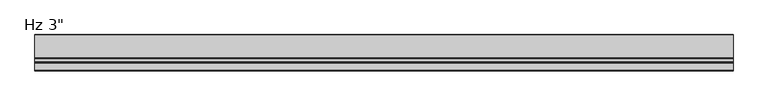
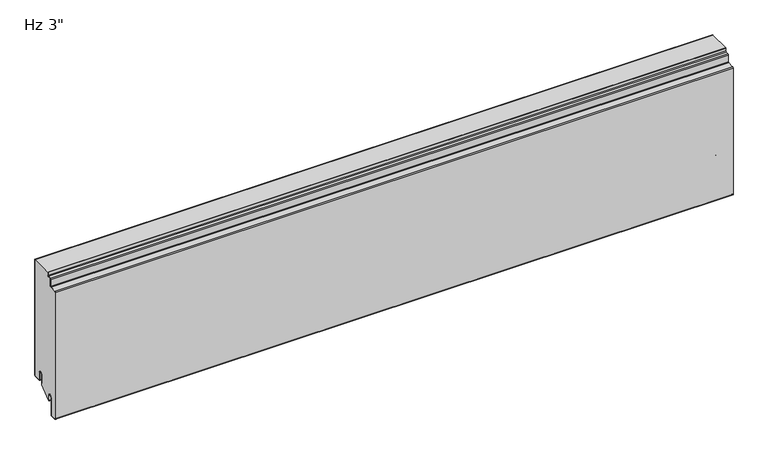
"""IFC4 building model written with IfcOpenShell, lengths in millimetres: plate geometry."""

from ifc_helpers import new_model, si_unit, point, frame, frame_2d, origin, place, context, project, spatial, polyline, circle_curve, trimmed, segment, composite_curve, outline, extrude, source, transform, mapped, element, save


def plate_fa82ef35(model_context):
    return source(origin(), model_context, "Body", "SweptSolid", [
        extrude(outline(composite_curve([segment(trimmed(circle_curve(frame_2d((-21.43125, 19.05)), 4.96875), [point((-16.4625, 19.05))], [point((-26.4, 19.05))], True, "CARTESIAN"), True, "CONTINUOUS"), segment(polyline([(-26.4, 19.05), (-26.4, -3.1323422), (-49.2157227, -23.01875), (-50.8, -23.01875), (-50.8, -13.5080174), (-51.59375, -13.5080174), (-51.3875, -11.9205174)]), True, "CONTINUOUS"), segment(trimmed(circle_curve(frame_2d((-56.35625, -11.9205174)), 4.96875), [point((-51.3875, -11.9205174))], [point((-61.325, -11.9205174))], True, "CARTESIAN"), True, "CONTINUOUS"), segment(polyline([(-61.325, -11.9205174), (-61.325, -50.1038221)]), True, "CONTINUOUS"), segment(trimmed(circle_curve(frame_2d((-62.70625, -50.1038221)), 1.38125), [point((-61.325, -50.1038221))], [point((-62.633961, -51.4831791))], False, "CARTESIAN"), True, "CONTINUOUS"), segment(polyline([(-62.633961, -51.4831791), (-73.746461, -52.0655606)]), True, "CONTINUOUS"), segment(trimmed(circle_curve(frame_2d((-73.81875, -50.6862035)), 1.38125), [point((-73.746461, -52.0655606))], [point((-75.2, -50.6862035))], False, "CARTESIAN"), True, "CONTINUOUS"), segment(polyline([(-75.2, -50.6862035), (-75.2, 236.6447607)]), True, "CONTINUOUS"), segment(trimmed(circle_curve(frame_2d((-73.81875, 236.6447607)), 1.38125), [point((-75.2, 236.6447607))], [point((-73.891039, 238.0241177))], False, "CARTESIAN"), True, "CONTINUOUS"), segment(polyline([(-73.891039, 238.0241177), (-60.1895807, 238.7421807)]), True, "CONTINUOUS"), segment(trimmed(circle_curve(frame_2d((-60.325, 241.3261347)), 2.5875), [point((-60.1895807, 238.7421807))], [point((-57.7375, 241.3261347))], True, "CARTESIAN"), True, "CONTINUOUS"), segment(polyline([(-57.7375, 241.3261347), (-57.7375, 255.4824411)]), True, "CONTINUOUS"), segment(trimmed(circle_curve(frame_2d((-56.35625, 255.4824411)), 1.38125), [point((-57.7375, 255.4824411))], [point((-56.428539, 256.8617981))], False, "CARTESIAN"), True, "CONTINUOUS"), segment(polyline([(-56.428539, 256.8617981), (-50.6645807, 257.1638744)]), True, "CONTINUOUS"), segment(trimmed(circle_curve(frame_2d((-50.8, 259.7478283)), 2.5875), [point((-50.6645807, 257.1638744))], [point((-48.2125, 259.7478283))], True, "CARTESIAN"), True, "CONTINUOUS"), segment(polyline([(-48.2125, 259.7478283), (-48.2125, 266.4), (-1.0, 266.4), (-1.0, 3.175)]), True, "CONTINUOUS"), segment(trimmed(circle_curve(frame_2d((-2.38125, 3.175)), 1.38125), [point((-1.0, 3.175))], [point((-2.38125, 1.79375))], False, "CARTESIAN"), True, "CONTINUOUS"), segment(polyline([(-2.38125, 1.79375), (-15.08125, 1.79375)]), True, "CONTINUOUS"), segment(trimmed(circle_curve(frame_2d((-15.08125, 3.175)), 1.38125), [point((-15.08125, 1.79375))], [point((-16.4625, 3.175))], False, "CARTESIAN"), True, "CONTINUOUS"), segment(polyline([(-16.4625, 3.175), (-16.4625, 19.05)]), True, "CONTINUOUS")], self_intersect=False)), frame((-730.0, 0.0, 0.0), z_axis=(1.0, 0.0, 0.0), x_axis=(0.0, 1.0, 0.0)), (0.0, 0.0, 1.0), 1460.0),
        extrude(outline(composite_curve([segment(polyline([(-25.4, 0.79375), (-26.4, 0.79375), (-26.4, 19.05)]), True, "CONTINUOUS"), segment(trimmed(circle_curve(frame_2d((-21.43125, 19.05)), 4.96875), [point((-26.4, 19.05))], [point((-16.4625, 19.05))], False, "CARTESIAN"), True, "CONTINUOUS"), segment(polyline([(-16.4625, 19.05), (-16.4625, 3.175)]), True, "CONTINUOUS"), segment(trimmed(circle_curve(frame_2d((-15.08125, 3.175)), 1.38125), [point((-16.4625, 3.175))], [point((-15.08125, 1.79375))], True, "CARTESIAN"), True, "CONTINUOUS"), segment(polyline([(-15.08125, 1.79375), (-2.38125, 1.79375)]), True, "CONTINUOUS"), segment(trimmed(circle_curve(frame_2d((-2.38125, 3.175)), 1.38125), [point((-2.38125, 1.79375))], [point((-1.0, 3.175))], True, "CARTESIAN"), True, "CONTINUOUS"), segment(polyline([(-1.0, 3.175), (-1.0, 266.4), (0.0, 266.4), (0.0, 3.175)]), True, "CONTINUOUS"), segment(trimmed(circle_curve(frame_2d((-2.38125, 3.175)), 2.38125), [point((0.0, 3.175))], [point((-2.38125, 0.79375))], False, "CARTESIAN"), True, "CONTINUOUS"), segment(polyline([(-2.38125, 0.79375), (-15.08125, 0.79375)]), True, "CONTINUOUS"), segment(trimmed(circle_curve(frame_2d((-15.08125, 3.175)), 2.38125), [point((-15.08125, 0.79375))], [point((-17.4625, 3.175))], False, "CARTESIAN"), True, "CONTINUOUS"), segment(polyline([(-17.4625, 3.175), (-17.4625, 19.05)]), True, "CONTINUOUS"), segment(trimmed(circle_curve(frame_2d((-21.43125, 19.05)), 3.96875), [point((-17.4625, 19.05))], [point((-25.4, 19.05))], True, "CARTESIAN"), True, "CONTINUOUS"), segment(polyline([(-25.4, 19.05), (-25.4, 0.79375)]), True, "CONTINUOUS")], self_intersect=False)), frame((-730.0, 0.0, 0.0), z_axis=(1.0, 0.0, 0.0), x_axis=(0.0, 1.0, 0.0)), (0.0, 0.0, 1.0), 1460.0),
        extrude(outline(composite_curve([segment(trimmed(circle_curve(frame_2d((-51.59375, -23.2314549)), 0.79375), [point((-50.8, -23.2314549))], [point((-52.3875, -23.2314549))], False, "CARTESIAN"), True, "CONTINUOUS"), segment(polyline([(-52.3875, -23.2314549), (-52.3875, -11.9205174)]), True, "CONTINUOUS"), segment(trimmed(circle_curve(frame_2d((-56.35625, -11.9205174)), 3.96875), [point((-52.3875, -11.9205174))], [point((-60.325, -11.9205174))], True, "CARTESIAN"), True, "CONTINUOUS"), segment(polyline([(-60.325, -11.9205174), (-60.325, -50.1038221)]), True, "CONTINUOUS"), segment(trimmed(circle_curve(frame_2d((-62.70625, -50.1038221)), 2.38125), [point((-60.325, -50.1038221))], [point((-62.581625, -52.4818086))], False, "CARTESIAN"), True, "CONTINUOUS"), segment(polyline([(-62.581625, -52.4818086), (-73.694125, -53.0641901)]), True, "CONTINUOUS"), segment(trimmed(circle_curve(frame_2d((-73.81875, -50.6862035)), 2.38125), [point((-73.694125, -53.0641901))], [point((-76.2, -50.6862035))], False, "CARTESIAN"), True, "CONTINUOUS"), segment(polyline([(-76.2, -50.6862035), (-76.2, 236.6447607)]), True, "CONTINUOUS"), segment(trimmed(circle_curve(frame_2d((-73.81875, 236.6447607)), 2.38125), [point((-76.2, 236.6447607))], [point((-73.943375, 239.0227473))], False, "CARTESIAN"), True, "CONTINUOUS"), segment(polyline([(-73.943375, 239.0227473), (-60.2419167, 239.7408103)]), True, "CONTINUOUS"), segment(trimmed(circle_curve(frame_2d((-60.325, 241.3261347)), 1.5875), [point((-60.2419167, 239.7408103))], [point((-58.7375, 241.3261347))], True, "CARTESIAN"), True, "CONTINUOUS"), segment(polyline([(-58.7375, 241.3261347), (-58.7375, 255.4824411)]), True, "CONTINUOUS"), segment(trimmed(circle_curve(frame_2d((-56.35625, 255.4824411)), 2.38125), [point((-58.7375, 255.4824411))], [point((-56.480875, 257.8604276))], False, "CARTESIAN"), True, "CONTINUOUS"), segment(polyline([(-56.480875, 257.8604276), (-50.7169167, 258.1625039)]), True, "CONTINUOUS"), segment(trimmed(circle_curve(frame_2d((-50.8, 259.7478283)), 1.5875), [point((-50.7169167, 258.1625039))], [point((-49.2125, 259.7478283))], True, "CARTESIAN"), True, "CONTINUOUS"), segment(polyline([(-49.2125, 259.7478283), (-49.2125, 266.4), (-48.2125, 266.4), (-48.2125, 259.7478283)]), True, "CONTINUOUS"), segment(trimmed(circle_curve(frame_2d((-50.8, 259.7478283)), 2.5875), [point((-48.2125, 259.7478283))], [point((-50.6645807, 257.1638744))], False, "CARTESIAN"), True, "CONTINUOUS"), segment(polyline([(-50.6645807, 257.1638744), (-56.428539, 256.8617981)]), True, "CONTINUOUS"), segment(trimmed(circle_curve(frame_2d((-56.35625, 255.4824411)), 1.38125), [point((-56.428539, 256.8617981))], [point((-57.7375, 255.4824411))], True, "CARTESIAN"), True, "CONTINUOUS"), segment(polyline([(-57.7375, 255.4824411), (-57.7375, 241.3261347)]), True, "CONTINUOUS"), segment(trimmed(circle_curve(frame_2d((-60.325, 241.3261347)), 2.5875), [point((-57.7375, 241.3261347))], [point((-60.1895807, 238.7421807))], False, "CARTESIAN"), True, "CONTINUOUS"), segment(polyline([(-60.1895807, 238.7421807), (-73.891039, 238.0241177)]), True, "CONTINUOUS"), segment(trimmed(circle_curve(frame_2d((-73.81875, 236.6447607)), 1.38125), [point((-73.891039, 238.0241177))], [point((-75.2, 236.6447607))], True, "CARTESIAN"), True, "CONTINUOUS"), segment(polyline([(-75.2, 236.6447607), (-75.2, -50.6862035)]), True, "CONTINUOUS"), segment(trimmed(circle_curve(frame_2d((-73.81875, -50.6862035)), 1.38125), [point((-75.2, -50.6862035))], [point((-73.746461, -52.0655606))], True, "CARTESIAN"), True, "CONTINUOUS"), segment(polyline([(-73.746461, -52.0655606), (-62.633961, -51.4831791)]), True, "CONTINUOUS"), segment(trimmed(circle_curve(frame_2d((-62.70625, -50.1038221)), 1.38125), [point((-62.633961, -51.4831791))], [point((-61.325, -50.1038221))], True, "CARTESIAN"), True, "CONTINUOUS"), segment(polyline([(-61.325, -50.1038221), (-61.325, -11.9205174)]), True, "CONTINUOUS"), segment(trimmed(circle_curve(frame_2d((-56.35625, -11.9205174)), 4.96875), [point((-61.325, -11.9205174))], [point((-51.3875, -11.9205174))], False, "CARTESIAN"), True, "CONTINUOUS"), segment(polyline([(-51.3875, -11.9205174), (-51.59375, -13.5080174), (-50.8, -13.5080174), (-50.8, -23.2314549)]), True, "CONTINUOUS")], self_intersect=False)), frame((-730.0, 0.0, 0.0), z_axis=(1.0, 0.0, 0.0), x_axis=(0.0, 1.0, 0.0)), (0.0, 0.0, 1.0), 1460.0),
    ])


if __name__ == "__main__":
    model = new_model("IFC4")
    model_context = context("Model", 3, world=origin())
    ifc_project = project(units=[si_unit("LENGTHUNIT", "METRE", prefix="MILLI")], contexts=[model_context])
    site = spatial("IfcSite", under=ifc_project)
    building = spatial("IfcBuilding", under=site)
    placement = place(None, origin())
    plate_shape = plate_fa82ef35(model_context)
    element("IfcPlate", 1, ObjectType="KIP-12-DWHR-R19-CP-Hz-F : Hz 3\"", at=placement, inside=building, context=model_context, shape_type="MappedRepresentation", body=[
        mapped(plate_shape, transform((0.0, 0.0, 0.0), x_axis=(1.0, 0.0, 0.0), y_axis=(0.0, 1.0, 0.0), z_axis=(0.0, 0.0, 1.0))),
    ])
    save(model, "model.ifc")
